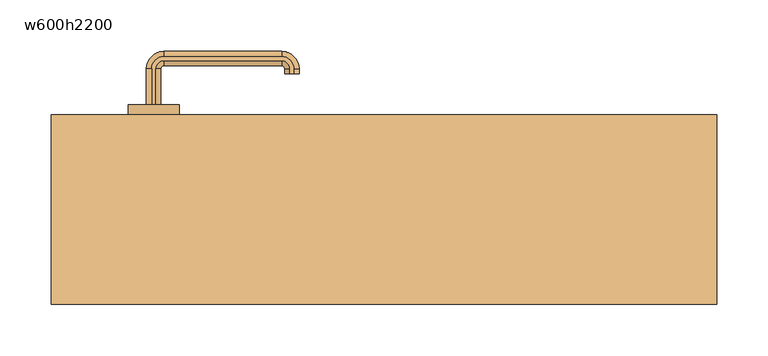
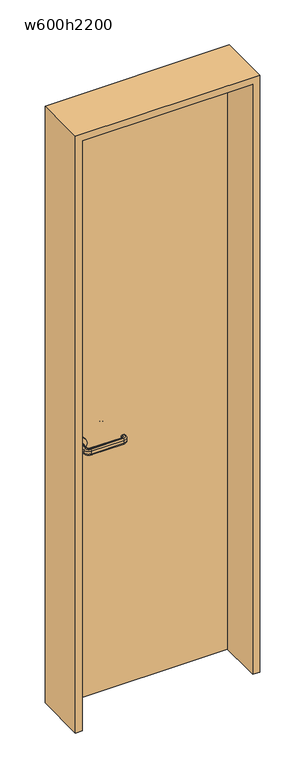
"""IFC4 building model written with IfcOpenShell, lengths in millimetres: door geometry, 片開き : w600h2200."""

from ifc_helpers import new_model, si_unit, point, frame, frame_2d, origin, origin_with_axes, place, context, project, spatial, polyline, circle_curve, ellipse_curve, trimmed, segment, composite_curve, outline, extrude, source, transform, mapped, element, save
from ifc_brep_helpers import plane_surface, cylinder_surface, revolved_surface, advanced_brep


def w600h2200_8a8f31b7(model_context):
    return source(origin(), model_context, "Body", "SolidModel", [
        advanced_brep(
        [(-227.0, 102.5, 960.0), (-232.0, 102.5, 955.0), (-232.0, 102.5, 945.0477623), (-227.0, 102.5, 940.0477623), (-223.0, 102.5, 940.0477623), (-218.0, 102.5, 945.0477623), (-218.0, 102.5, 955.0), (-223.0, 102.5, 960.0), (-227.0, 137.5, 960.0), (-232.0, 137.5, 955.0), (-232.0, 137.5, 945.0477623), (-227.0, 137.5, 940.0477623), (-215.0, 149.5, 940.0477623), (-100.0, 149.5, 940.0477623), (-88.0, 137.5, 940.0477623), (-88.0, 132.5, 940.0477623), (-92.0, 132.5, 940.0477623), (-92.0, 137.5, 940.0477623), (-100.0, 145.5, 940.0477623), (-215.0, 145.5, 940.0477623), (-223.0, 137.5, 940.0477623), (-218.0, 137.5, 945.0477623), (-218.0, 137.5, 955.0), (-223.0, 137.5, 960.0), (-215.0, 145.5, 960.0), (-100.0, 145.5, 960.0), (-92.0, 137.5, 960.0), (-92.0, 132.5, 960.0), (-88.0, 132.5, 960.0), (-88.0, 137.5, 960.0), (-100.0, 149.5, 960.0), (-215.0, 149.5, 960.0), (-215.0, 154.5, 955.0), (-215.0, 154.5, 945.0477623), (-215.0, 140.5, 945.0477623), (-215.0, 140.5, 955.0), (-100.0, 154.5, 955.0), (-100.0, 154.5, 945.0477623), (-100.0, 140.5, 945.0477623), (-100.0, 140.5, 955.0), (-83.0, 137.5, 955.0), (-83.0, 137.5, 945.0477623), (-97.0, 137.5, 945.0477623), (-97.0, 137.5, 955.0), (-97.0, 132.5, 955.0), (-97.0, 132.5, 945.0477623), (-83.0, 132.5, 945.0477623), (-83.0, 132.5, 955.0)],
        [
            (0, 1, circle_curve(frame((-227.0, 102.5, 955.0), z_axis=(0.0, -1.0, 0.0), x_axis=(-1.0, 0.0, 0.0)), 5.0)),
            (1, 2),
            (2, 3, circle_curve(frame((-227.0, 102.5, 945.0477623), z_axis=(0.0, -1.0, 0.0), x_axis=(-1.0, 0.0, 0.0)), 5.0)),
            (3, 4),
            (4, 5, circle_curve(frame((-223.0, 102.5, 945.0477623), z_axis=(0.0, -1.0, 0.0), x_axis=(-1.0, 0.0, 0.0)), 5.0)),
            (5, 6),
            (6, 7, circle_curve(frame((-223.0, 102.5, 955.0), z_axis=(0.0, -1.0, 0.0), x_axis=(-1.0, 0.0, 0.0)), 5.0)),
            (7, 0),
            (0, 8),
            (8, 9, circle_curve(frame((-227.0, 137.5, 955.0), z_axis=(0.0, -1.0, 0.0), x_axis=(-1.0, 0.0, 0.0)), 5.0)),
            (9, 1),
            (9, 10),
            (10, 2),
            (10, 11, circle_curve(frame((-227.0, 137.5, 945.0477623), z_axis=(0.0, -1.0, 0.0), x_axis=(-1.0, 0.0, 0.0)), 5.0)),
            (11, 3),
            (11, 12, circle_curve(frame((-215.0, 137.5, 940.0477623), z_axis=(0.0, 0.0, -1.0), x_axis=(-1.0, 0.0, 0.0)), 12.0)),
            (12, 13),
            (13, 14, circle_curve(frame((-100.0, 137.5, 940.0477623), z_axis=(0.0, 0.0, -1.0), x_axis=(0.0, 1.0, 0.0)), 12.0)),
            (14, 15),
            (15, 16),
            (16, 17),
            (17, 18, circle_curve(frame((-100.0, 137.5, 940.0477623), z_axis=(0.0, 0.0, 1.0), x_axis=(0.0, 1.0, 0.0)), 8.0)),
            (18, 19),
            (19, 20, circle_curve(frame((-215.0, 137.5, 940.0477623), z_axis=(0.0, 0.0, 1.0), x_axis=(-1.0, 0.0, 0.0)), 8.0)),
            (20, 4),
            (20, 21, circle_curve(frame((-223.0, 137.5, 945.0477623), z_axis=(0.0, -1.0, 0.0), x_axis=(-1.0, 0.0, 0.0)), 5.0)),
            (21, 5),
            (21, 22),
            (22, 6),
            (22, 23, circle_curve(frame((-223.0, 137.5, 955.0), z_axis=(0.0, -1.0, 0.0), x_axis=(-1.0, 0.0, 0.0)), 5.0)),
            (23, 7),
            (23, 24, circle_curve(frame((-215.0, 137.5, 960.0), z_axis=(0.0, 0.0, -1.0), x_axis=(-1.0, 0.0, 0.0)), 8.0)),
            (24, 25),
            (25, 26, circle_curve(frame((-100.0, 137.5, 960.0), z_axis=(0.0, 0.0, -1.0), x_axis=(0.0, 1.0, 0.0)), 8.0)),
            (26, 27),
            (27, 28),
            (28, 29),
            (29, 30, circle_curve(frame((-100.0, 137.5, 960.0), z_axis=(0.0, 0.0, 1.0), x_axis=(0.0, 1.0, 0.0)), 12.0)),
            (30, 31),
            (31, 8, circle_curve(frame((-215.0, 137.5, 960.0), z_axis=(0.0, 0.0, 1.0), x_axis=(-1.0, 0.0, 0.0)), 12.0)),
            (32, 9, circle_curve(frame((-215.0, 137.5, 955.0), z_axis=(0.0, 0.0, 1.0), x_axis=(-1.0, 0.0, 0.0)), 17.0)),
            (31, 32, circle_curve(frame((-215.0, 149.5, 955.0), z_axis=(-1.0, 0.0, 0.0), x_axis=(0.0, 1.0, 0.0)), 5.0)),
            (33, 10, circle_curve(frame((-215.0, 137.5, 945.0477623), z_axis=(0.0, 0.0, 1.0), x_axis=(-1.0, 0.0, 0.0)), 17.0)),
            (32, 33),
            (33, 12, circle_curve(frame((-215.0, 149.5, 945.0477623), z_axis=(-1.0, 0.0, 0.0), x_axis=(0.0, 1.0, 0.0)), 5.0)),
            (34, 21, circle_curve(frame((-215.0, 137.5, 945.0477623), z_axis=(0.0, 0.0, 1.0), x_axis=(-1.0, 0.0, 0.0)), 3.0)),
            (19, 34, circle_curve(frame((-215.0, 145.5, 945.0477623), z_axis=(-1.0, 0.0, 0.0), x_axis=(0.0, 1.0, 0.0)), 5.0)),
            (35, 22, circle_curve(frame((-215.0, 137.5, 955.0), z_axis=(0.0, 0.0, 1.0), x_axis=(-1.0, 0.0, 0.0)), 3.0)),
            (34, 35),
            (35, 24, circle_curve(frame((-215.0, 145.5, 955.0), z_axis=(-1.0, 0.0, 0.0), x_axis=(0.0, 1.0, 0.0)), 5.0)),
            (30, 36, circle_curve(frame((-100.0, 149.5, 955.0), z_axis=(-1.0, 0.0, 0.0), x_axis=(0.0, 1.0, 0.0)), 5.0)),
            (36, 32),
            (36, 37),
            (37, 33),
            (37, 13, circle_curve(frame((-100.0, 149.5, 945.0477623), z_axis=(-1.0, 0.0, 0.0), x_axis=(0.0, 1.0, 0.0)), 5.0)),
            (18, 38, circle_curve(frame((-100.0, 145.5, 945.0477623), z_axis=(-1.0, 0.0, 0.0), x_axis=(0.0, 1.0, 0.0)), 5.0)),
            (38, 34),
            (38, 39),
            (39, 35),
            (39, 25, circle_curve(frame((-100.0, 145.5, 955.0), z_axis=(-1.0, 0.0, 0.0), x_axis=(0.0, 1.0, 0.0)), 5.0)),
            (40, 36, circle_curve(frame((-100.0, 137.5, 955.0), z_axis=(0.0, 0.0, 1.0), x_axis=(0.0, 1.0, 0.0)), 17.0)),
            (29, 40, circle_curve(frame((-88.0, 137.5, 955.0), z_axis=(0.0, 1.0, 0.0), x_axis=(1.0, 0.0, 0.0)), 5.0)),
            (41, 37, circle_curve(frame((-100.0, 137.5, 945.0477623), z_axis=(0.0, 0.0, 1.0), x_axis=(0.0, 1.0, 0.0)), 17.0)),
            (40, 41),
            (41, 14, circle_curve(frame((-88.0, 137.5, 945.0477623), z_axis=(0.0, 1.0, 0.0), x_axis=(1.0, 0.0, 0.0)), 5.0)),
            (42, 38, circle_curve(frame((-100.0, 137.5, 945.0477623), z_axis=(0.0, 0.0, 1.0), x_axis=(0.0, 1.0, 0.0)), 3.0)),
            (17, 42, circle_curve(frame((-92.0, 137.5, 945.0477623), z_axis=(0.0, 1.0, 0.0), x_axis=(1.0, 0.0, 0.0)), 5.0)),
            (43, 39, circle_curve(frame((-100.0, 137.5, 955.0), z_axis=(0.0, 0.0, 1.0), x_axis=(0.0, 1.0, 0.0)), 3.0)),
            (42, 43),
            (43, 26, circle_curve(frame((-92.0, 137.5, 955.0), z_axis=(0.0, 1.0, 0.0), x_axis=(1.0, 0.0, 0.0)), 5.0)),
            (27, 44, circle_curve(frame((-92.0, 132.5, 955.0), z_axis=(0.0, -1.0, 0.0), x_axis=(1.0, 0.0, 0.0)), 5.0)),
            (44, 45),
            (45, 16, circle_curve(frame((-92.0, 132.5, 945.0477623), z_axis=(0.0, -1.0, 0.0), x_axis=(1.0, 0.0, 0.0)), 5.0)),
            (15, 46, circle_curve(frame((-88.0, 132.5, 945.0477623), z_axis=(0.0, -1.0, 0.0), x_axis=(1.0, 0.0, 0.0)), 5.0)),
            (46, 47),
            (47, 28, circle_curve(frame((-88.0, 132.5, 955.0), z_axis=(0.0, -1.0, 0.0), x_axis=(1.0, 0.0, 0.0)), 5.0)),
            (47, 40),
            (46, 41),
            (45, 42),
            (44, 43),
        ],
        [
            plane_surface(frame((-235.198039, 102.5, 950.0), z_axis=(0.0, -1.0, 0.0), x_axis=(0.0, 0.0, 1.0))),
            cylinder_surface(frame((-227.0, 102.5, 955.0), z_axis=(0.0, -1.0, 0.0), x_axis=(-1.0, 0.0, 0.0)), 5.0),
            plane_surface(frame((-232.0, 102.5, 955.0), z_axis=(-1.0, 0.0, 0.0), x_axis=(0.0, 1.0, 0.0))),
            cylinder_surface(frame((-227.0, 102.5, 945.0477623), z_axis=(0.0, -1.0, 0.0), x_axis=(-1.0, 0.0, 0.0)), 5.0),
            plane_surface(frame((-227.0, 102.5, 940.0477623), z_axis=(0.0, 0.0, -1.0), x_axis=(0.0, 1.0, 0.0))),
            cylinder_surface(frame((-223.0, 102.5, 945.0477623), z_axis=(0.0, -1.0, 0.0), x_axis=(-1.0, 0.0, 0.0)), 5.0),
            plane_surface(frame((-218.0, 102.5, 945.0477623), z_axis=(1.0, 0.0, 0.0), x_axis=(0.0, 1.0, 0.0))),
            cylinder_surface(frame((-223.0, 102.5, 955.0), z_axis=(0.0, -1.0, 0.0), x_axis=(-1.0, 0.0, 0.0)), 5.0),
            plane_surface(frame((-223.0, 102.5, 960.0), z_axis=(0.0, 0.0, 1.0), x_axis=(0.0, 1.0, 0.0))),
            revolved_surface(trimmed(ellipse_curve(frame((-227.0, 137.5, 955.0), z_axis=(0.0, -1.0, 0.0), x_axis=(-1.0, 0.0, 0.0)), 5.0, 5.0), [point((-227.0, 137.5, 960.0))], [point((-232.0, 137.5, 955.0))], True, "CARTESIAN"), (-215.0, 137.5, 950.0), (0.0, 0.0, -1.0)),
            cylinder_surface(frame((-215.0, 137.5, 950.0), z_axis=(0.0, 0.0, -1.0), x_axis=(-1.0, 0.0, 0.0)), 17.0),
            revolved_surface(trimmed(ellipse_curve(frame((-227.0, 137.5, 945.0477623), z_axis=(0.0, -1.0, 0.0), x_axis=(-1.0, 0.0, 0.0)), 5.0, 5.0), [point((-232.0, 137.5, 945.0477623))], [point((-227.0, 137.5, 940.0477623))], True, "CARTESIAN"), (-215.0, 137.5, 950.0), (0.0, 0.0, -1.0)),
            revolved_surface(trimmed(ellipse_curve(frame((-223.0, 137.5, 945.0477623), z_axis=(0.0, -1.0, 0.0), x_axis=(-1.0, 0.0, 0.0)), 5.0, 5.0), [point((-223.0, 137.5, 940.0477623))], [point((-218.0, 137.5, 945.0477623))], True, "CARTESIAN"), (-215.0, 137.5, 950.0), (0.0, 0.0, -1.0)),
            revolved_surface(polyline([(-218.0, 137.5, 945.0477623), (-218.0, 137.5, 955.0)]), (-215.0, 137.5, 950.0), (0.0, 0.0, -1.0)),
            revolved_surface(trimmed(ellipse_curve(frame((-223.0, 137.5, 955.0), z_axis=(0.0, -1.0, 0.0), x_axis=(-1.0, 0.0, 0.0)), 5.0, 5.0), [point((-218.0, 137.5, 955.0))], [point((-223.0, 137.5, 960.0))], True, "CARTESIAN"), (-215.0, 137.5, 950.0), (0.0, 0.0, -1.0)),
            cylinder_surface(frame((-215.0, 149.5, 955.0), z_axis=(-1.0, 0.0, 0.0), x_axis=(0.0, 1.0, 0.0)), 5.0),
            plane_surface(frame((-215.0, 154.5, 955.0), z_axis=(0.0, 1.0, 0.0), x_axis=(1.0, 0.0, 0.0))),
            cylinder_surface(frame((-215.0, 149.5, 945.0477623), z_axis=(-1.0, 0.0, 0.0), x_axis=(0.0, 1.0, 0.0)), 5.0),
            cylinder_surface(frame((-215.0, 145.5, 945.0477623), z_axis=(-1.0, 0.0, 0.0), x_axis=(0.0, 1.0, 0.0)), 5.0),
            plane_surface(frame((-215.0, 140.5, 945.0477623), z_axis=(0.0, -1.0, 0.0), x_axis=(1.0, 0.0, 0.0))),
            cylinder_surface(frame((-215.0, 145.5, 955.0), z_axis=(-1.0, 0.0, 0.0), x_axis=(0.0, 1.0, 0.0)), 5.0),
            revolved_surface(trimmed(ellipse_curve(frame((-100.0, 149.5, 955.0), z_axis=(-1.0, 0.0, 0.0), x_axis=(0.0, 1.0, 0.0)), 5.0, 5.0), [point((-100.0, 149.5, 960.0))], [point((-100.0, 154.5, 955.0))], True, "CARTESIAN"), (-100.0, 137.5, 950.0), (0.0, 0.0, -1.0)),
            cylinder_surface(frame((-100.0, 137.5, 950.0), z_axis=(0.0, 0.0, -1.0), x_axis=(0.0, 1.0, 0.0)), 17.0),
            revolved_surface(trimmed(ellipse_curve(frame((-100.0, 149.5, 945.0477623), z_axis=(-1.0, 0.0, 0.0), x_axis=(0.0, 1.0, 0.0)), 5.0, 5.0), [point((-100.0, 154.5, 945.0477623))], [point((-100.0, 149.5, 940.0477623))], True, "CARTESIAN"), (-100.0, 137.5, 950.0), (0.0, 0.0, -1.0)),
            revolved_surface(trimmed(ellipse_curve(frame((-100.0, 145.5, 945.0477623), z_axis=(-1.0, 0.0, 0.0), x_axis=(0.0, 1.0, 0.0)), 5.0, 5.0), [point((-100.0, 145.5, 940.0477623))], [point((-100.0, 140.5, 945.0477623))], True, "CARTESIAN"), (-100.0, 137.5, 950.0), (0.0, 0.0, -1.0)),
            revolved_surface(polyline([(-100.0, 140.5, 945.0477623), (-100.0, 140.5, 955.0)]), (-100.0, 137.5, 950.0), (0.0, 0.0, -1.0)),
            revolved_surface(trimmed(ellipse_curve(frame((-100.0, 145.5, 955.0), z_axis=(-1.0, 0.0, 0.0), x_axis=(0.0, 1.0, 0.0)), 5.0, 5.0), [point((-100.0, 140.5, 955.0))], [point((-100.0, 145.5, 960.0))], True, "CARTESIAN"), (-100.0, 137.5, 950.0), (0.0, 0.0, -1.0)),
            plane_surface(frame((-100.198039, 132.5, 950.0), z_axis=(0.0, -1.0, 0.0), x_axis=(0.0, 0.0, -1.0))),
            cylinder_surface(frame((-88.0, 137.5, 955.0), z_axis=(0.0, 1.0, 0.0), x_axis=(1.0, 0.0, 0.0)), 5.0),
            plane_surface(frame((-83.0, 137.5, 955.0), z_axis=(1.0, 0.0, 0.0), x_axis=(0.0, -1.0, 0.0))),
            cylinder_surface(frame((-88.0, 137.5, 945.0477623), z_axis=(0.0, 1.0, 0.0), x_axis=(1.0, 0.0, 0.0)), 5.0),
            cylinder_surface(frame((-92.0, 137.5, 945.0477623), z_axis=(0.0, 1.0, 0.0), x_axis=(1.0, 0.0, 0.0)), 5.0),
            plane_surface(frame((-97.0, 137.5, 945.0477623), z_axis=(-1.0, 0.0, 0.0), x_axis=(0.0, -1.0, 0.0))),
            cylinder_surface(frame((-92.0, 137.5, 955.0), z_axis=(0.0, 1.0, 0.0), x_axis=(1.0, 0.0, 0.0)), 5.0),
        ],
        [
            (0, [[1, 2, 3, 4, 5, 6, 7, 8]]),
            (1, [[-1, 9, 10, 11]]),
            (2, [[-2, -11, 12, 13]]),
            (3, [[-3, -13, 14, 15]]),
            (4, [[-4, -15, 16, 17, 18, 19, 20, 21, 22, 23, 24, 25]]),
            (5, [[-5, -25, 26, 27]]),
            (6, [[-6, -27, 28, 29]]),
            (7, [[-7, -29, 30, 31]]),
            (8, [[-8, -31, 32, 33, 34, 35, 36, 37, 38, 39, 40, -9]]),
            (9, [[41, -10, -40, 42]]),
            (10, [[43, -12, -41, 44]]),
            (11, [[-16, -14, -43, 45]]),
            (12, [[46, -26, -24, 47]]),
            (13, [[48, -28, -46, 49]]),
            (14, [[-32, -30, -48, 50]]),
            (15, [[-42, -39, 51, 52]]),
            (16, [[-44, -52, 53, 54]]),
            (17, [[-45, -54, 55, -17]]),
            (18, [[-47, -23, 56, 57]]),
            (19, [[-49, -57, 58, 59]]),
            (20, [[-50, -59, 60, -33]]),
            (21, [[61, -51, -38, 62]]),
            (22, [[63, -53, -61, 64]]),
            (23, [[-18, -55, -63, 65]]),
            (24, [[66, -56, -22, 67]]),
            (25, [[68, -58, -66, 69]]),
            (26, [[-34, -60, -68, 70]]),
            (27, [[-36, 71, 72, 73, -20, 74, 75, 76]]),
            (28, [[-62, -37, -76, 77]]),
            (29, [[-64, -77, -75, 78]]),
            (30, [[-65, -78, -74, -19]]),
            (31, [[-67, -21, -73, 79]]),
            (32, [[-69, -79, -72, 80]]),
            (33, [[-70, -80, -71, -35]]),
        ],
    ),
        advanced_brep(
        [(-223.0, 52.5, 940.0), (-227.0, 52.5, 940.0), (-232.0, 52.5, 945.0), (-232.0, 52.5, 955.0), (-227.0, 52.5, 960.0), (-223.0, 52.5, 960.0), (-218.0, 52.5, 955.0), (-218.0, 52.5, 945.0), (-223.0, 17.5, 940.0), (-215.0, 9.5, 940.0), (-100.0, 9.5, 940.0), (-92.0, 17.5, 940.0), (-92.0, 22.5, 940.0), (-88.0, 22.5, 940.0), (-88.0, 17.5, 940.0), (-100.0, 5.5, 940.0), (-215.0, 5.5, 940.0), (-227.0, 17.5, 940.0), (-232.0, 17.5, 945.0), (-232.0, 17.5, 955.0), (-227.0, 17.5, 960.0), (-215.0, 5.5, 960.0), (-100.0, 5.5, 960.0), (-88.0, 17.5, 960.0), (-88.0, 22.5, 960.0), (-92.0, 22.5, 960.0), (-92.0, 17.5, 960.0), (-100.0, 9.5, 960.0), (-215.0, 9.5, 960.0), (-223.0, 17.5, 960.0), (-218.0, 17.5, 955.0), (-218.0, 17.5, 945.0), (-215.0, 0.5, 945.0), (-215.0, 0.5, 955.0), (-215.0, 14.5, 955.0), (-215.0, 14.5, 945.0), (-100.0, 0.5, 945.0), (-100.0, 0.5, 955.0), (-100.0, 14.5, 955.0), (-100.0, 14.5, 945.0), (-83.0, 17.5, 945.0), (-83.0, 17.5, 955.0), (-97.0, 17.5, 955.0), (-97.0, 17.5, 945.0), (-97.0, 22.5, 945.0), (-97.0, 22.5, 955.0), (-83.0, 22.5, 955.0), (-83.0, 22.5, 945.0)],
        [
            (0, 1),
            (1, 2, circle_curve(frame((-227.0, 52.5, 945.0), z_axis=(0.0, 1.0, 0.0), x_axis=(1.0, 0.0, 0.0)), 5.0)),
            (2, 3),
            (3, 4, circle_curve(frame((-227.0, 52.5, 955.0), z_axis=(0.0, 1.0, 0.0), x_axis=(1.0, 0.0, 0.0)), 5.0)),
            (4, 5),
            (5, 6, circle_curve(frame((-223.0, 52.5, 955.0), z_axis=(0.0, 1.0, 0.0), x_axis=(1.0, 0.0, 0.0)), 5.0)),
            (6, 7),
            (7, 0, circle_curve(frame((-223.0, 52.5, 945.0), z_axis=(0.0, 1.0, 0.0), x_axis=(1.0, 0.0, 0.0)), 5.0)),
            (0, 8),
            (8, 9, circle_curve(frame((-215.0, 17.5, 940.0), z_axis=(0.0, 0.0, 1.0), x_axis=(-1.0, 0.0, 0.0)), 8.0)),
            (9, 10),
            (10, 11, circle_curve(frame((-100.0, 17.5, 940.0), z_axis=(0.0, 0.0, 1.0), x_axis=(0.0, -1.0, 0.0)), 8.0)),
            (11, 12),
            (12, 13),
            (13, 14),
            (14, 15, circle_curve(frame((-100.0, 17.5, 940.0), z_axis=(0.0, 0.0, -1.0), x_axis=(0.0, -1.0, 0.0)), 12.0)),
            (15, 16),
            (16, 17, circle_curve(frame((-215.0, 17.5, 940.0), z_axis=(0.0, 0.0, -1.0), x_axis=(-1.0, 0.0, 0.0)), 12.0)),
            (17, 1),
            (17, 18, circle_curve(frame((-227.0, 17.5, 945.0), z_axis=(0.0, 1.0, 0.0), x_axis=(1.0, 0.0, 0.0)), 5.0)),
            (18, 2),
            (18, 19),
            (19, 3),
            (19, 20, circle_curve(frame((-227.0, 17.5, 955.0), z_axis=(0.0, 1.0, 0.0), x_axis=(1.0, 0.0, 0.0)), 5.0)),
            (20, 4),
            (20, 21, circle_curve(frame((-215.0, 17.5, 960.0), z_axis=(0.0, 0.0, 1.0), x_axis=(-1.0, 0.0, 0.0)), 12.0)),
            (21, 22),
            (22, 23, circle_curve(frame((-100.0, 17.5, 960.0), z_axis=(0.0, 0.0, 1.0), x_axis=(0.0, -1.0, 0.0)), 12.0)),
            (23, 24),
            (24, 25),
            (25, 26),
            (26, 27, circle_curve(frame((-100.0, 17.5, 960.0), z_axis=(0.0, 0.0, -1.0), x_axis=(0.0, -1.0, 0.0)), 8.0)),
            (27, 28),
            (28, 29, circle_curve(frame((-215.0, 17.5, 960.0), z_axis=(0.0, 0.0, -1.0), x_axis=(-1.0, 0.0, 0.0)), 8.0)),
            (29, 5),
            (29, 30, circle_curve(frame((-223.0, 17.5, 955.0), z_axis=(0.0, 1.0, 0.0), x_axis=(1.0, 0.0, 0.0)), 5.0)),
            (30, 6),
            (30, 31),
            (31, 7),
            (31, 8, circle_curve(frame((-223.0, 17.5, 945.0), z_axis=(0.0, 1.0, 0.0), x_axis=(1.0, 0.0, 0.0)), 5.0)),
            (32, 18, circle_curve(frame((-215.0, 17.5, 945.0), z_axis=(0.0, 0.0, -1.0), x_axis=(-1.0, 0.0, 0.0)), 17.0)),
            (16, 32, circle_curve(frame((-215.0, 5.5, 945.0), z_axis=(-1.0, 0.0, 0.0), x_axis=(0.0, 1.0, 0.0)), 5.0)),
            (33, 19, circle_curve(frame((-215.0, 17.5, 955.0), z_axis=(0.0, 0.0, -1.0), x_axis=(-1.0, 0.0, 0.0)), 17.0)),
            (32, 33),
            (33, 21, circle_curve(frame((-215.0, 5.5, 955.0), z_axis=(-1.0, 0.0, 0.0), x_axis=(0.0, 1.0, 0.0)), 5.0)),
            (34, 30, circle_curve(frame((-215.0, 17.5, 955.0), z_axis=(0.0, 0.0, -1.0), x_axis=(-1.0, 0.0, 0.0)), 3.0)),
            (28, 34, circle_curve(frame((-215.0, 9.5, 955.0), z_axis=(-1.0, 0.0, 0.0), x_axis=(0.0, 1.0, 0.0)), 5.0)),
            (35, 31, circle_curve(frame((-215.0, 17.5, 945.0), z_axis=(0.0, 0.0, -1.0), x_axis=(-1.0, 0.0, 0.0)), 3.0)),
            (34, 35),
            (35, 9, circle_curve(frame((-215.0, 9.5, 945.0), z_axis=(-1.0, 0.0, 0.0), x_axis=(0.0, 1.0, 0.0)), 5.0)),
            (15, 36, circle_curve(frame((-100.0, 5.5, 945.0), z_axis=(-1.0, 0.0, 0.0), x_axis=(0.0, 1.0, 0.0)), 5.0)),
            (36, 32),
            (36, 37),
            (37, 33),
            (37, 22, circle_curve(frame((-100.0, 5.5, 955.0), z_axis=(-1.0, 0.0, 0.0), x_axis=(0.0, 1.0, 0.0)), 5.0)),
            (27, 38, circle_curve(frame((-100.0, 9.5, 955.0), z_axis=(-1.0, 0.0, 0.0), x_axis=(0.0, 1.0, 0.0)), 5.0)),
            (38, 34),
            (38, 39),
            (39, 35),
            (39, 10, circle_curve(frame((-100.0, 9.5, 945.0), z_axis=(-1.0, 0.0, 0.0), x_axis=(0.0, 1.0, 0.0)), 5.0)),
            (40, 36, circle_curve(frame((-100.0, 17.5, 945.0), z_axis=(0.0, 0.0, -1.0), x_axis=(0.0, -1.0, 0.0)), 17.0)),
            (14, 40, circle_curve(frame((-88.0, 17.5, 945.0), z_axis=(0.0, -1.0, 0.0), x_axis=(-1.0, 0.0, 0.0)), 5.0)),
            (41, 37, circle_curve(frame((-100.0, 17.5, 955.0), z_axis=(0.0, 0.0, -1.0), x_axis=(0.0, -1.0, 0.0)), 17.0)),
            (40, 41),
            (41, 23, circle_curve(frame((-88.0, 17.5, 955.0), z_axis=(0.0, -1.0, 0.0), x_axis=(-1.0, 0.0, 0.0)), 5.0)),
            (42, 38, circle_curve(frame((-100.0, 17.5, 955.0), z_axis=(0.0, 0.0, -1.0), x_axis=(0.0, -1.0, 0.0)), 3.0)),
            (26, 42, circle_curve(frame((-92.0, 17.5, 955.0), z_axis=(0.0, -1.0, 0.0), x_axis=(-1.0, 0.0, 0.0)), 5.0)),
            (43, 39, circle_curve(frame((-100.0, 17.5, 945.0), z_axis=(0.0, 0.0, -1.0), x_axis=(0.0, -1.0, 0.0)), 3.0)),
            (42, 43),
            (43, 11, circle_curve(frame((-92.0, 17.5, 945.0), z_axis=(0.0, -1.0, 0.0), x_axis=(-1.0, 0.0, 0.0)), 5.0)),
            (12, 44, circle_curve(frame((-92.0, 22.5, 945.0), z_axis=(0.0, 1.0, 0.0), x_axis=(-1.0, 0.0, 0.0)), 5.0)),
            (44, 45),
            (45, 25, circle_curve(frame((-92.0, 22.5, 955.0), z_axis=(0.0, 1.0, 0.0), x_axis=(-1.0, 0.0, 0.0)), 5.0)),
            (24, 46, circle_curve(frame((-88.0, 22.5, 955.0), z_axis=(0.0, 1.0, 0.0), x_axis=(-1.0, 0.0, 0.0)), 5.0)),
            (46, 47),
            (47, 13, circle_curve(frame((-88.0, 22.5, 945.0), z_axis=(0.0, 1.0, 0.0), x_axis=(-1.0, 0.0, 0.0)), 5.0)),
            (47, 40),
            (46, 41),
            (45, 42),
            (44, 43),
        ],
        [
            plane_surface(frame((-235.198039, 52.5, 950.0), z_axis=(0.0, 1.0, 0.0), x_axis=(0.0, 0.0, -1.0))),
            plane_surface(frame((-223.0, 52.5, 940.0), z_axis=(0.0, 0.0, -1.0), x_axis=(0.0, -1.0, 0.0))),
            cylinder_surface(frame((-227.0, 52.5, 945.0), z_axis=(0.0, 1.0, 0.0), x_axis=(1.0, 0.0, 0.0)), 5.0),
            plane_surface(frame((-232.0, 52.5, 945.0), z_axis=(-1.0, 0.0, 0.0), x_axis=(0.0, -1.0, 0.0))),
            cylinder_surface(frame((-227.0, 52.5, 955.0), z_axis=(0.0, 1.0, 0.0), x_axis=(1.0, 0.0, 0.0)), 5.0),
            plane_surface(frame((-227.0, 52.5, 960.0), z_axis=(0.0, 0.0, 1.0), x_axis=(0.0, -1.0, 0.0))),
            cylinder_surface(frame((-223.0, 52.5, 955.0), z_axis=(0.0, 1.0, 0.0), x_axis=(1.0, 0.0, 0.0)), 5.0),
            plane_surface(frame((-218.0, 52.5, 955.0), z_axis=(1.0, 0.0, 0.0), x_axis=(0.0, -1.0, 0.0))),
            cylinder_surface(frame((-223.0, 52.5, 945.0), z_axis=(0.0, 1.0, 0.0), x_axis=(1.0, 0.0, 0.0)), 5.0),
            revolved_surface(trimmed(ellipse_curve(frame((-227.0, 17.5, 945.0), z_axis=(0.0, 1.0, 0.0), x_axis=(1.0, 0.0, 0.0)), 5.0, 5.0), [point((-227.0, 17.5, 940.0))], [point((-232.0, 17.5, 945.0))], True, "CARTESIAN"), (-215.0, 17.5, 950.0), (0.0, 0.0, 1.0)),
            cylinder_surface(frame((-215.0, 17.5, 950.0), z_axis=(0.0, 0.0, 1.0), x_axis=(-1.0, 0.0, 0.0)), 17.0),
            revolved_surface(trimmed(ellipse_curve(frame((-227.0, 17.5, 955.0), z_axis=(0.0, 1.0, 0.0), x_axis=(1.0, 0.0, 0.0)), 5.0, 5.0), [point((-232.0, 17.5, 955.0))], [point((-227.0, 17.5, 960.0))], True, "CARTESIAN"), (-215.0, 17.5, 950.0), (0.0, 0.0, 1.0)),
            revolved_surface(trimmed(ellipse_curve(frame((-223.0, 17.5, 955.0), z_axis=(0.0, 1.0, 0.0), x_axis=(1.0, 0.0, 0.0)), 5.0, 5.0), [point((-223.0, 17.5, 960.0))], [point((-218.0, 17.5, 955.0))], True, "CARTESIAN"), (-215.0, 17.5, 950.0), (0.0, 0.0, 1.0)),
            revolved_surface(polyline([(-218.0, 17.5, 955.0), (-218.0, 17.5, 945.0)]), (-215.0, 17.5, 950.0), (0.0, 0.0, 1.0)),
            revolved_surface(trimmed(ellipse_curve(frame((-223.0, 17.5, 945.0), z_axis=(0.0, 1.0, 0.0), x_axis=(1.0, 0.0, 0.0)), 5.0, 5.0), [point((-218.0, 17.5, 945.0))], [point((-223.0, 17.5, 940.0))], True, "CARTESIAN"), (-215.0, 17.5, 950.0), (0.0, 0.0, 1.0)),
            cylinder_surface(frame((-215.0, 5.5, 945.0), z_axis=(-1.0, 0.0, 0.0), x_axis=(0.0, 1.0, 0.0)), 5.0),
            plane_surface(frame((-215.0, 0.5, 945.0), z_axis=(0.0, -1.0, 0.0), x_axis=(1.0, 0.0, 0.0))),
            cylinder_surface(frame((-215.0, 5.5, 955.0), z_axis=(-1.0, 0.0, 0.0), x_axis=(0.0, 1.0, 0.0)), 5.0),
            cylinder_surface(frame((-215.0, 9.5, 955.0), z_axis=(-1.0, 0.0, 0.0), x_axis=(0.0, 1.0, 0.0)), 5.0),
            plane_surface(frame((-215.0, 14.5, 955.0), z_axis=(0.0, 1.0, 0.0), x_axis=(1.0, 0.0, 0.0))),
            cylinder_surface(frame((-215.0, 9.5, 945.0), z_axis=(-1.0, 0.0, 0.0), x_axis=(0.0, 1.0, 0.0)), 5.0),
            revolved_surface(trimmed(ellipse_curve(frame((-100.0, 5.5, 945.0), z_axis=(-1.0, 0.0, 0.0), x_axis=(0.0, 1.0, 0.0)), 5.0, 5.0), [point((-100.0, 5.5, 940.0))], [point((-100.0, 0.5, 945.0))], True, "CARTESIAN"), (-100.0, 17.5, 950.0), (0.0, 0.0, 1.0)),
            cylinder_surface(frame((-100.0, 17.5, 950.0), z_axis=(0.0, 0.0, 1.0), x_axis=(0.0, -1.0, 0.0)), 17.0),
            revolved_surface(trimmed(ellipse_curve(frame((-100.0, 5.5, 955.0), z_axis=(-1.0, 0.0, 0.0), x_axis=(0.0, 1.0, 0.0)), 5.0, 5.0), [point((-100.0, 0.5, 955.0))], [point((-100.0, 5.5, 960.0))], True, "CARTESIAN"), (-100.0, 17.5, 950.0), (0.0, 0.0, 1.0)),
            revolved_surface(trimmed(ellipse_curve(frame((-100.0, 9.5, 955.0), z_axis=(-1.0, 0.0, 0.0), x_axis=(0.0, 1.0, 0.0)), 5.0, 5.0), [point((-100.0, 9.5, 960.0))], [point((-100.0, 14.5, 955.0))], True, "CARTESIAN"), (-100.0, 17.5, 950.0), (0.0, 0.0, 1.0)),
            revolved_surface(polyline([(-100.0, 14.5, 955.0), (-100.0, 14.5, 945.0)]), (-100.0, 17.5, 950.0), (0.0, 0.0, 1.0)),
            revolved_surface(trimmed(ellipse_curve(frame((-100.0, 9.5, 945.0), z_axis=(-1.0, 0.0, 0.0), x_axis=(0.0, 1.0, 0.0)), 5.0, 5.0), [point((-100.0, 14.5, 945.0))], [point((-100.0, 9.5, 940.0))], True, "CARTESIAN"), (-100.0, 17.5, 950.0), (0.0, 0.0, 1.0)),
            plane_surface(frame((-100.198039, 22.5, 950.0), z_axis=(0.0, 1.0, 0.0), x_axis=(0.0, 0.0, 1.0))),
            cylinder_surface(frame((-88.0, 17.5, 945.0), z_axis=(0.0, -1.0, 0.0), x_axis=(-1.0, 0.0, 0.0)), 5.0),
            plane_surface(frame((-83.0, 17.5, 945.0), z_axis=(1.0, 0.0, 0.0), x_axis=(0.0, 1.0, 0.0))),
            cylinder_surface(frame((-88.0, 17.5, 955.0), z_axis=(0.0, -1.0, 0.0), x_axis=(-1.0, 0.0, 0.0)), 5.0),
            cylinder_surface(frame((-92.0, 17.5, 955.0), z_axis=(0.0, -1.0, 0.0), x_axis=(-1.0, 0.0, 0.0)), 5.0),
            plane_surface(frame((-97.0, 17.5, 955.0), z_axis=(-1.0, 0.0, 0.0), x_axis=(0.0, 1.0, 0.0))),
            cylinder_surface(frame((-92.0, 17.5, 945.0), z_axis=(0.0, -1.0, 0.0), x_axis=(-1.0, 0.0, 0.0)), 5.0),
        ],
        [
            (0, [[1, 2, 3, 4, 5, 6, 7, 8]]),
            (1, [[-1, 9, 10, 11, 12, 13, 14, 15, 16, 17, 18, 19]]),
            (2, [[-2, -19, 20, 21]]),
            (3, [[-3, -21, 22, 23]]),
            (4, [[-4, -23, 24, 25]]),
            (5, [[-5, -25, 26, 27, 28, 29, 30, 31, 32, 33, 34, 35]]),
            (6, [[-6, -35, 36, 37]]),
            (7, [[-7, -37, 38, 39]]),
            (8, [[-8, -39, 40, -9]]),
            (9, [[41, -20, -18, 42]]),
            (10, [[43, -22, -41, 44]]),
            (11, [[-26, -24, -43, 45]]),
            (12, [[46, -36, -34, 47]]),
            (13, [[48, -38, -46, 49]]),
            (14, [[-10, -40, -48, 50]]),
            (15, [[-42, -17, 51, 52]]),
            (16, [[-44, -52, 53, 54]]),
            (17, [[-45, -54, 55, -27]]),
            (18, [[-47, -33, 56, 57]]),
            (19, [[-49, -57, 58, 59]]),
            (20, [[-50, -59, 60, -11]]),
            (21, [[61, -51, -16, 62]]),
            (22, [[63, -53, -61, 64]]),
            (23, [[-28, -55, -63, 65]]),
            (24, [[66, -56, -32, 67]]),
            (25, [[68, -58, -66, 69]]),
            (26, [[-12, -60, -68, 70]]),
            (27, [[71, 72, 73, -30, 74, 75, 76, -14]]),
            (28, [[-62, -15, -76, 77]]),
            (29, [[-64, -77, -75, 78]]),
            (30, [[-65, -78, -74, -29]]),
            (31, [[-67, -31, -73, 79]]),
            (32, [[-69, -79, -72, 80]]),
            (33, [[-70, -80, -71, -13]]),
        ],
    ),
        extrude(outline(composite_curve([segment(trimmed(circle_curve(frame_2d((950.0, -225.0)), 25.0), [point((950.0, -250.0))], [point((950.0, -200.0))], False, "CARTESIAN"), True, "CONTINUOUS"), segment(trimmed(circle_curve(frame_2d((950.0, -225.0)), 25.0), [point((950.0, -200.0))], [point((950.0, -250.0))], False, "CARTESIAN"), True, "CONTINUOUS")], self_intersect=False)), frame((0.0, 92.5, 0.0), z_axis=(0.0, 1.0, 0.0), x_axis=(0.0, 0.0, 1.0)), (0.0, 0.0, 1.0), 10.0),
        extrude(outline(composite_curve([segment(trimmed(circle_curve(frame_2d((950.0, -225.0)), 25.0), [point((950.0, -250.0))], [point((950.0, -200.0))], False, "CARTESIAN"), True, "CONTINUOUS"), segment(trimmed(circle_curve(frame_2d((950.0, -225.0)), 25.0), [point((950.0, -200.0))], [point((950.0, -250.0))], False, "CARTESIAN"), True, "CONTINUOUS")], self_intersect=False)), frame((0.0, 52.5, 0.0), z_axis=(0.0, 1.0, 0.0), x_axis=(0.0, 0.0, 1.0)), (0.0, 0.0, 1.0), 10.0),
        extrude(outline(polyline([(300.0, 62.5), (-300.0, 62.5), (-300.0, 92.5), (300.0, 92.5), (300.0, 62.5)])), origin_with_axes(), (0.0, 0.0, 1.0), 2200.0),
        extrude(outline(polyline([(2225.0, -325.0), (0.0, -325.0), (0.0, -300.0), (2200.0, -300.0), (2200.0, 300.0), (0.0, 300.0), (0.0, 325.0), (2225.0, 325.0), (2225.0, -325.0)])), frame((0.0, -92.5, 0.0), z_axis=(0.0, 1.0, 0.0), x_axis=(0.0, 0.0, 1.0)), (0.0, 0.0, 1.0), 185.0),
    ])


if __name__ == "__main__":
    model = new_model("IFC4")
    model_context = context("Model", 3, world=origin())
    ifc_project = project(units=[si_unit("LENGTHUNIT", "METRE", prefix="MILLI")], contexts=[model_context])
    site = spatial("IfcSite", under=ifc_project)
    building = spatial("IfcBuilding", under=site)
    placement = place(None, origin())
    w600h2200_shape = w600h2200_8a8f31b7(model_context)
    element("IfcDoor", 1, ObjectType="片開き : w600h2200", at=placement, inside=building, context=model_context, shape_type="MappedRepresentation", body=[
        mapped(w600h2200_shape, transform((0.0, 0.0, 0.0), x_axis=(1.0, 0.0, 0.0), y_axis=(0.0, 1.0, 0.0), z_axis=(0.0, 0.0, 1.0))),
    ])
    save(model, "model.ifc")
